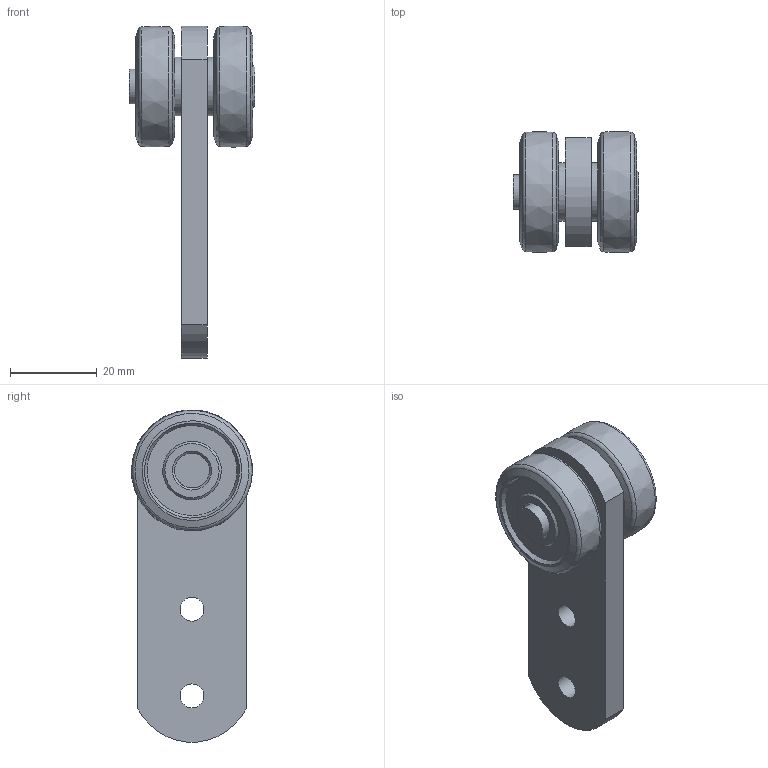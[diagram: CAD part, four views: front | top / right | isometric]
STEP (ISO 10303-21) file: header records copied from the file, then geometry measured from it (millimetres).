
FILE_DESCRIPTION(/* description */ ('Brennteil'),/* implementation_level */ '2;1');
FILE_NAME(/* name */ 'Q:\sge-ma\Produktmanagement-STB\STB\Workspace\stp\010332811.stp',/* time_stamp */ '2016-07-18T10:11:55+02:00',/* author */ ('avschreier'),/* organization */ (''),/* preprocessor_version */ 'ST-DEVELOPER v16.1',/* originating_system */ 'Autodesk Inventor 2016',/* authorisation */ '');
FILE_SCHEMA (('AUTOMOTIVE_DESIGN { 1 0 10303 214 3 1 1 }'));
Length unit declared in the file: millimetre
Products named in the file (5): 337000358; 000304011; 000303235; 000226092; 010332811
Assembly tree (6 placements, depth 2):
  010332811
    337000358
    000304011
    000303235  x2
    000226092  x2
Bounding box: 29 x 27.96 x 76.63 mm (x, y, z)
Volume: 20679.3 mm3; surface area: 10417.5 mm2
Topology: 6 solids, 6 shells, 60 faces, 107 edges, 68 vertices
Faces by surface type: plane 23, cone 17, cylinder 13, torus 5, bspline 2
Full cylindrical faces by diameter (mm): 5.5 x2, 8 x3, 8.1 x1, 8.5 x2, 10 x1, 13.5 x2
Entity records: 1009 total; most frequent: DIRECTION 184, CARTESIAN_POINT 170, ORIENTED_EDGE 98, AXIS2_PLACEMENT_3D 88, EDGE_LOOP 73, EDGE_CURVE 49, VERTEX_POINT 44, CIRCLE 40
